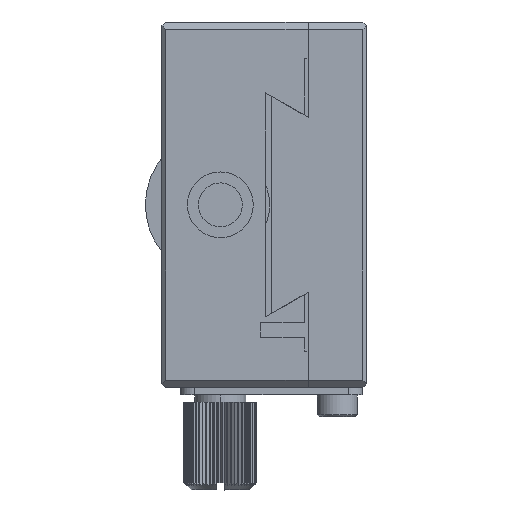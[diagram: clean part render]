
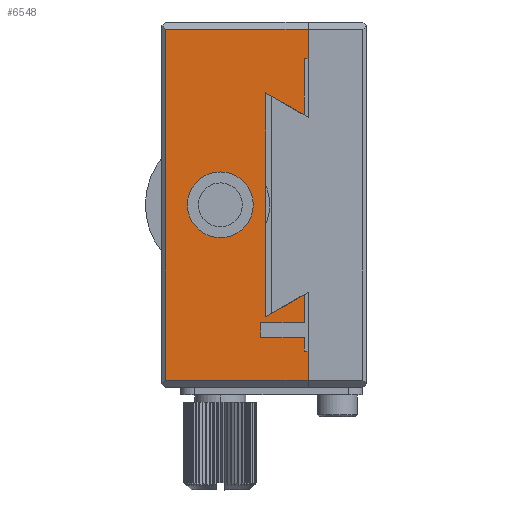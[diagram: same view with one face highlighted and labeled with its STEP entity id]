
A CAD part, left-side view. The second image highlights one B-rep face of the part: STEP entity #6548.
In plain terms, the highlighted planar face has unit normal (-1, 0, 0).
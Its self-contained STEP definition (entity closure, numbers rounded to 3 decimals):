
#223 = LINE ( 'NONE', #27855, #31194 ) ;
#239 = EDGE_CURVE ( 'NONE', #40619, #21474, #3786, .T. ) ;
#698 = FACE_OUTER_BOUND ( 'NONE', #42862, .T. ) ;
#1585 = DIRECTION ( 'NONE',  ( 0., -1., 0. ) ) ;
#3786 = LINE ( 'NONE', #19528, #22843 ) ;
#3792 = EDGE_CURVE ( 'NONE', #19730, #24973, #24856, .T. ) ;
#4639 = EDGE_CURVE ( 'NONE', #26123, #19730, #25182, .T. ) ;
#4764 = CARTESIAN_POINT ( 'NONE',  ( -62.873, 6.167, -4.5 ) ) ;
#4913 = LINE ( 'NONE', #35854, #49383 ) ;
#5494 = ORIENTED_EDGE ( 'NONE', *, *, #35899, .T. ) ;
#5545 = LINE ( 'NONE', #44359, #22399 ) ;
#6397 = ORIENTED_EDGE ( 'NONE', *, *, #33181, .F. ) ;
#6483 = VECTOR ( 'NONE', #36759, 1000. ) ;
#6525 = DIRECTION ( 'NONE',  ( 0., 0., 1. ) ) ;
#6548 = ADVANCED_FACE ( 'NONE', ( #698, #12148 ), #15946, .F. ) ;
#6685 = CARTESIAN_POINT ( 'NONE',  ( -62.873, -5.833, -24. ) ) ;
#6723 = CARTESIAN_POINT ( 'NONE',  ( -62.873, 13.667, 24. ) ) ;
#6879 = EDGE_CURVE ( 'NONE', #47605, #34696, #23508, .T. ) ;
#6961 = ORIENTED_EDGE ( 'NONE', *, *, #44073, .F. ) ;
#8213 = VECTOR ( 'NONE', #6525, 1000. ) ;
#8255 = ORIENTED_EDGE ( 'NONE', *, *, #6879, .F. ) ;
#8428 = VERTEX_POINT ( 'NONE', #23989 ) ;
#8494 = CARTESIAN_POINT ( 'NONE',  ( -62.873, -5.333, -20. ) ) ;
#8708 = CARTESIAN_POINT ( 'NONE',  ( -62.873, 13.667, -24. ) ) ;
#9715 = CIRCLE ( 'NONE', #27519, 4.5 ) ;
#9893 = VECTOR ( 'NONE', #48047, 1000. ) ;
#9997 = DIRECTION ( 'NONE',  ( 0., -1., 0. ) ) ;
#10106 = CARTESIAN_POINT ( 'NONE',  ( -62.873, -5.833, 20. ) ) ;
#10142 = LINE ( 'NONE', #14446, #23895 ) ;
#10182 = CARTESIAN_POINT ( 'NONE',  ( -62.873, 14.167, 24. ) ) ;
#10518 = AXIS2_PLACEMENT_3D ( 'NONE', #46392, #39512, #16694 ) ;
#10633 = VECTOR ( 'NONE', #49297, 1000. ) ;
#10862 = CARTESIAN_POINT ( 'NONE',  ( -62.873, -5.833, 11.963 ) ) ;
#11474 = LINE ( 'NONE', #38839, #21074 ) ;
#11786 = CARTESIAN_POINT ( 'NONE',  ( -62.873, -0.033, -15.312 ) ) ;
#11839 = CARTESIAN_POINT ( 'NONE',  ( -62.873, -5.833, 20. ) ) ;
#12148 = FACE_BOUND ( 'NONE', #30186, .T. ) ;
#13669 = EDGE_CURVE ( 'NONE', #47605, #26123, #45608, .T. ) ;
#14446 = CARTESIAN_POINT ( 'NONE',  ( -62.873, -5.333, -20. ) ) ;
#15081 = VECTOR ( 'NONE', #9997, 1000. ) ;
#15315 = VECTOR ( 'NONE', #16134, 1000. ) ;
#15946 = PLANE ( 'NONE',  #10518 ) ;
#16022 = DIRECTION ( 'NONE',  ( 0., 0., 1. ) ) ;
#16134 = DIRECTION ( 'NONE',  ( 0., 1., 0. ) ) ;
#16264 = DIRECTION ( 'NONE',  ( -1., 0., 0. ) ) ;
#16694 = DIRECTION ( 'NONE',  ( 0., 0., -1. ) ) ;
#17077 = CARTESIAN_POINT ( 'NONE',  ( -62.873, 0.667, -18.112 ) ) ;
#17247 = DIRECTION ( 'NONE',  ( 0., 0.866, -0.5 ) ) ;
#17402 = CARTESIAN_POINT ( 'NONE',  ( -62.873, -0.033, 15.312 ) ) ;
#17831 = LINE ( 'NONE', #17077, #35999 ) ;
#17990 = ORIENTED_EDGE ( 'NONE', *, *, #37980, .T. ) ;
#18873 = EDGE_CURVE ( 'NONE', #30320, #36482, #49251, .T. ) ;
#19528 = CARTESIAN_POINT ( 'NONE',  ( -62.873, -5.833, -20. ) ) ;
#19730 = VERTEX_POINT ( 'NONE', #6723 ) ;
#19935 = VERTEX_POINT ( 'NONE', #47777 ) ;
#20259 = CARTESIAN_POINT ( 'NONE',  ( -62.873, 0.667, -18.112 ) ) ;
#20651 = DIRECTION ( 'NONE',  ( 0., 0., 1. ) ) ;
#21074 = VECTOR ( 'NONE', #42410, 1000. ) ;
#21474 = VERTEX_POINT ( 'NONE', #22822 ) ;
#21658 = VERTEX_POINT ( 'NONE', #20259 ) ;
#22015 = CARTESIAN_POINT ( 'NONE',  ( -62.873, -0.033, -15.312 ) ) ;
#22228 = ORIENTED_EDGE ( 'NONE', *, *, #49255, .T. ) ;
#22399 = VECTOR ( 'NONE', #17247, 1000. ) ;
#22422 = VERTEX_POINT ( 'NONE', #24939 ) ;
#22423 = CARTESIAN_POINT ( 'NONE',  ( -62.873, -5.333, 12.252 ) ) ;
#22763 = VECTOR ( 'NONE', #44187, 1000. ) ;
#22822 = CARTESIAN_POINT ( 'NONE',  ( -62.873, -5.833, -20. ) ) ;
#22843 = VECTOR ( 'NONE', #27621, 1000. ) ;
#23084 = DIRECTION ( 'NONE',  ( 0., 0., -1. ) ) ;
#23184 = CARTESIAN_POINT ( 'NONE',  ( -62.873, 6.167, 4.5 ) ) ;
#23508 = LINE ( 'NONE', #11839, #15315 ) ;
#23895 = VECTOR ( 'NONE', #41822, 1000. ) ;
#23989 = CARTESIAN_POINT ( 'NONE',  ( -62.873, -5.333, -12.252 ) ) ;
#24113 = VECTOR ( 'NONE', #41793, 1000. ) ;
#24541 = EDGE_CURVE ( 'NONE', #45083, #37734, #38471, .T. ) ;
#24822 = EDGE_CURVE ( 'NONE', #19935, #21658, #45012, .T. ) ;
#24856 = LINE ( 'NONE', #28651, #6483 ) ;
#24939 = CARTESIAN_POINT ( 'NONE',  ( -62.873, -5.333, -16.112 ) ) ;
#24973 = VERTEX_POINT ( 'NONE', #8708 ) ;
#25182 = LINE ( 'NONE', #10182, #22763 ) ;
#25230 = CARTESIAN_POINT ( 'NONE',  ( -62.873, 0.667, -16.112 ) ) ;
#25480 = CARTESIAN_POINT ( 'NONE',  ( -62.873, -0.033, 15.312 ) ) ;
#26123 = VERTEX_POINT ( 'NONE', #27441 ) ;
#26444 = VERTEX_POINT ( 'NONE', #6685 ) ;
#27043 = ORIENTED_EDGE ( 'NONE', *, *, #44644, .F. ) ;
#27435 = CARTESIAN_POINT ( 'NONE',  ( -62.873, 6.167, 0. ) ) ;
#27441 = CARTESIAN_POINT ( 'NONE',  ( -62.873, -5.833, 24. ) ) ;
#27519 = AXIS2_PLACEMENT_3D ( 'NONE', #36524, #16264, #36014 ) ;
#27621 = DIRECTION ( 'NONE',  ( 0., -1., 0. ) ) ;
#27855 = CARTESIAN_POINT ( 'NONE',  ( -62.873, -5.333, 20. ) ) ;
#28528 = LINE ( 'NONE', #8494, #9893 ) ;
#28651 = CARTESIAN_POINT ( 'NONE',  ( -62.873, 13.667, -25. ) ) ;
#28832 = EDGE_CURVE ( 'NONE', #36482, #30320, #9715, .T. ) ;
#30186 = EDGE_LOOP ( 'NONE', ( #33068, #31379 ) ) ;
#30196 = CARTESIAN_POINT ( 'NONE',  ( -62.873, -5.333, -20. ) ) ;
#30320 = VERTEX_POINT ( 'NONE', #23184 ) ;
#30351 = VERTEX_POINT ( 'NONE', #22423 ) ;
#31194 = VECTOR ( 'NONE', #23084, 1000. ) ;
#31379 = ORIENTED_EDGE ( 'NONE', *, *, #18873, .F. ) ;
#31825 = VERTEX_POINT ( 'NONE', #42897 ) ;
#33068 = ORIENTED_EDGE ( 'NONE', *, *, #28832, .F. ) ;
#33181 = EDGE_CURVE ( 'NONE', #31825, #40619, #28528, .T. ) ;
#33247 = EDGE_CURVE ( 'NONE', #37734, #30351, #44492, .T. ) ;
#33330 = DIRECTION ( 'NONE',  ( 0., -0.866, -0.5 ) ) ;
#33771 = ORIENTED_EDGE ( 'NONE', *, *, #44762, .F. ) ;
#33857 = AXIS2_PLACEMENT_3D ( 'NONE', #27435, #35280, #16022 ) ;
#34170 = ORIENTED_EDGE ( 'NONE', *, *, #24541, .T. ) ;
#34696 = VERTEX_POINT ( 'NONE', #45171 ) ;
#35280 = DIRECTION ( 'NONE',  ( -1., 0., 0. ) ) ;
#35854 = CARTESIAN_POINT ( 'NONE',  ( -62.873, -5.833, -25. ) ) ;
#35899 = EDGE_CURVE ( 'NONE', #24973, #26444, #11474, .T. ) ;
#35999 = VECTOR ( 'NONE', #1585, 1000. ) ;
#36014 = DIRECTION ( 'NONE',  ( 0., 0., 1. ) ) ;
#36482 = VERTEX_POINT ( 'NONE', #4764 ) ;
#36524 = CARTESIAN_POINT ( 'NONE',  ( -62.873, 6.167, 0. ) ) ;
#36759 = DIRECTION ( 'NONE',  ( 0., 0., -1. ) ) ;
#37653 = CARTESIAN_POINT ( 'NONE',  ( -62.873, 0.667, -18.112 ) ) ;
#37734 = VERTEX_POINT ( 'NONE', #17402 ) ;
#37786 = ORIENTED_EDGE ( 'NONE', *, *, #4639, .T. ) ;
#37980 = EDGE_CURVE ( 'NONE', #26444, #21474, #4913, .T. ) ;
#38239 = VECTOR ( 'NONE', #33330, 1000. ) ;
#38471 = LINE ( 'NONE', #22015, #8213 ) ;
#38839 = CARTESIAN_POINT ( 'NONE',  ( -62.873, 14.167, -24. ) ) ;
#38842 = ORIENTED_EDGE ( 'NONE', *, *, #3792, .T. ) ;
#39512 = DIRECTION ( 'NONE',  ( 1., 0., 0. ) ) ;
#40300 = ORIENTED_EDGE ( 'NONE', *, *, #239, .F. ) ;
#40424 = LINE ( 'NONE', #25230, #15081 ) ;
#40619 = VERTEX_POINT ( 'NONE', #30196 ) ;
#41793 = DIRECTION ( 'NONE',  ( 0., 0., 1. ) ) ;
#41822 = DIRECTION ( 'NONE',  ( 0., 0., -1. ) ) ;
#41908 = ORIENTED_EDGE ( 'NONE', *, *, #48352, .T. ) ;
#42410 = DIRECTION ( 'NONE',  ( 0., -1., 0. ) ) ;
#42862 = EDGE_LOOP ( 'NONE', ( #37786, #38842, #5494, #17990, #40300, #6397, #6961, #43747, #41908, #27043, #22228, #34170, #45227, #33771, #8255, #48762 ) ) ;
#42897 = CARTESIAN_POINT ( 'NONE',  ( -62.873, -5.333, -18.112 ) ) ;
#43747 = ORIENTED_EDGE ( 'NONE', *, *, #24822, .F. ) ;
#44073 = EDGE_CURVE ( 'NONE', #21658, #31825, #17831, .T. ) ;
#44187 = DIRECTION ( 'NONE',  ( 0., 1., 0. ) ) ;
#44359 = CARTESIAN_POINT ( 'NONE',  ( -62.873, -0.033, -15.312 ) ) ;
#44492 = LINE ( 'NONE', #25480, #38239 ) ;
#44644 = EDGE_CURVE ( 'NONE', #8428, #22422, #10142, .T. ) ;
#44762 = EDGE_CURVE ( 'NONE', #34696, #30351, #223, .T. ) ;
#45012 = LINE ( 'NONE', #37653, #10633 ) ;
#45083 = VERTEX_POINT ( 'NONE', #11786 ) ;
#45171 = CARTESIAN_POINT ( 'NONE',  ( -62.873, -5.333, 20. ) ) ;
#45227 = ORIENTED_EDGE ( 'NONE', *, *, #33247, .T. ) ;
#45608 = LINE ( 'NONE', #10862, #24113 ) ;
#46392 = CARTESIAN_POINT ( 'NONE',  ( -62.873, 14.167, -25. ) ) ;
#47605 = VERTEX_POINT ( 'NONE', #10106 ) ;
#47777 = CARTESIAN_POINT ( 'NONE',  ( -62.873, 0.667, -16.112 ) ) ;
#48047 = DIRECTION ( 'NONE',  ( 0., 0., -1. ) ) ;
#48352 = EDGE_CURVE ( 'NONE', #19935, #22422, #40424, .T. ) ;
#48762 = ORIENTED_EDGE ( 'NONE', *, *, #13669, .T. ) ;
#49251 = CIRCLE ( 'NONE', #33857, 4.5 ) ;
#49255 = EDGE_CURVE ( 'NONE', #8428, #45083, #5545, .T. ) ;
#49297 = DIRECTION ( 'NONE',  ( 0., 0., -1. ) ) ;
#49383 = VECTOR ( 'NONE', #20651, 1000. ) ;
